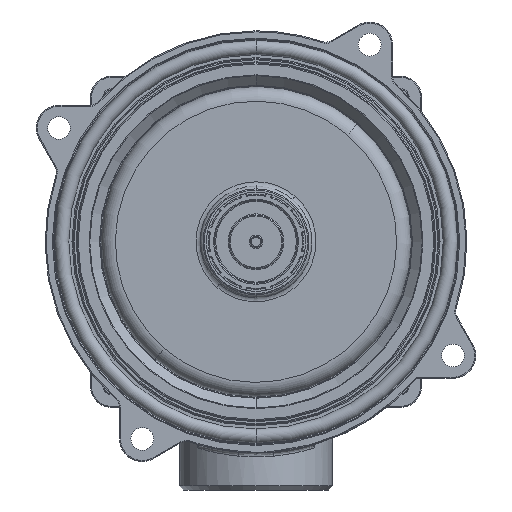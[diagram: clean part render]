
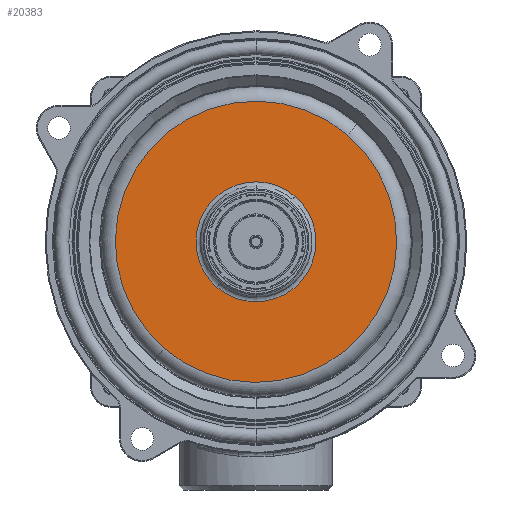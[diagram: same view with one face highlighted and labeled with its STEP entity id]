
A CAD part, front view. The second image highlights one B-rep face of the part: STEP entity #20383.
In plain terms, the highlighted planar face has unit normal (0, -1, 0).
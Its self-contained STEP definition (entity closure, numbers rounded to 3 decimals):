
#2417 = ORIENTED_EDGE ( 'NONE', *, *, #6427, .F. ) ;
#3377 = AXIS2_PLACEMENT_3D ( 'NONE', #15972, #34412, #18651 ) ;
#5111 = CIRCLE ( 'NONE', #25442, 29. ) ;
#5762 = ORIENTED_EDGE ( 'NONE', *, *, #21940, .T. ) ;
#6427 = EDGE_CURVE ( 'NONE', #20397, #11894, #5111, .T. ) ;
#7288 = DIRECTION ( 'NONE',  ( 0., -1., 0. ) ) ;
#7385 = AXIS2_PLACEMENT_3D ( 'NONE', #26656, #29191, #31947 ) ;
#7870 = ORIENTED_EDGE ( 'NONE', *, *, #7912, .F. ) ;
#7912 = EDGE_CURVE ( 'NONE', #11894, #20397, #15944, .T. ) ;
#9181 = DIRECTION ( 'NONE',  ( 0., -1., 0. ) ) ;
#11825 = VERTEX_POINT ( 'NONE', #18519 ) ;
#11894 = VERTEX_POINT ( 'NONE', #29343 ) ;
#13457 = CARTESIAN_POINT ( 'NONE',  ( 0., 10., -29. ) ) ;
#14325 = VERTEX_POINT ( 'NONE', #29603 ) ;
#14473 = CIRCLE ( 'NONE', #3377, 68. ) ;
#14980 = CARTESIAN_POINT ( 'NONE',  ( 0., 10., 0. ) ) ;
#15866 = AXIS2_PLACEMENT_3D ( 'NONE', #25107, #9181, #27748 ) ;
#15944 = CIRCLE ( 'NONE', #23912, 29. ) ;
#15972 = CARTESIAN_POINT ( 'NONE',  ( 0., 10., 0. ) ) ;
#16888 = EDGE_CURVE ( 'NONE', #14325, #11825, #31963, .T. ) ;
#17671 = DIRECTION ( 'NONE',  ( 0., 0., -1. ) ) ;
#18519 = CARTESIAN_POINT ( 'NONE',  ( 0., 10., -68. ) ) ;
#18651 = DIRECTION ( 'NONE',  ( 0., 0., -1. ) ) ;
#19143 = ORIENTED_EDGE ( 'NONE', *, *, #16888, .T. ) ;
#20383 = ADVANCED_FACE ( 'NONE', ( #23638, #22823 ), #29301, .T. ) ;
#20397 = VERTEX_POINT ( 'NONE', #13457 ) ;
#21940 = EDGE_CURVE ( 'NONE', #11825, #14325, #14473, .T. ) ;
#22823 = FACE_BOUND ( 'NONE', #27667, .T. ) ;
#23248 = CARTESIAN_POINT ( 'NONE',  ( 0., 10., 0. ) ) ;
#23638 = FACE_OUTER_BOUND ( 'NONE', #29850, .T. ) ;
#23912 = AXIS2_PLACEMENT_3D ( 'NONE', #14980, #33440, #17671 ) ;
#25107 = CARTESIAN_POINT ( 'NONE',  ( 0., 10., 0. ) ) ;
#25442 = AXIS2_PLACEMENT_3D ( 'NONE', #23248, #7288, #25890 ) ;
#25890 = DIRECTION ( 'NONE',  ( 0., 0., -1. ) ) ;
#26656 = CARTESIAN_POINT ( 'NONE',  ( 68., 10., 0. ) ) ;
#27667 = EDGE_LOOP ( 'NONE', ( #2417, #7870 ) ) ;
#27748 = DIRECTION ( 'NONE',  ( 0., 0., -1. ) ) ;
#29191 = DIRECTION ( 'NONE',  ( 0., -1., 0. ) ) ;
#29301 = PLANE ( 'NONE',  #7385 ) ;
#29343 = CARTESIAN_POINT ( 'NONE',  ( 0., 10., 29. ) ) ;
#29603 = CARTESIAN_POINT ( 'NONE',  ( 0., 10., 68. ) ) ;
#29850 = EDGE_LOOP ( 'NONE', ( #5762, #19143 ) ) ;
#31947 = DIRECTION ( 'NONE',  ( 0., 0., -1. ) ) ;
#31963 = CIRCLE ( 'NONE', #15866, 68. ) ;
#33440 = DIRECTION ( 'NONE',  ( 0., -1., 0. ) ) ;
#34412 = DIRECTION ( 'NONE',  ( 0., -1., 0. ) ) ;
